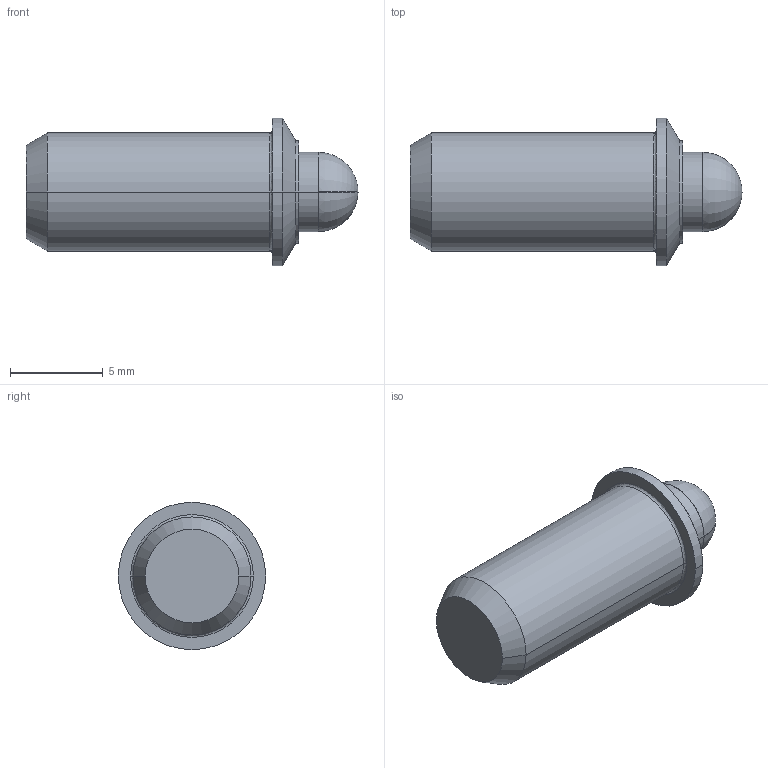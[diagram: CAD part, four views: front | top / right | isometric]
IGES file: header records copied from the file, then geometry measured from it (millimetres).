
Start section:  PTC IGES file: pfp54-part-3d.igs
Global section: file name: pfp54-part-3d.igs; native system: Pro/ENGINEER by Parametric Technology Corporation; preprocessor: 2002350; author: chant; organization: Unknown; date: 070201.155056; units: inch
Bounding box: 17.86 x 7.92 x 7.92 mm (x, y, z)
Surface area: 629.3 mm2 (no closed solid volume)
Topology: 0 solids, 0 shells, 30 faces, 154 edges, 176 vertices
Faces by surface type: revolution 24, bspline 6
